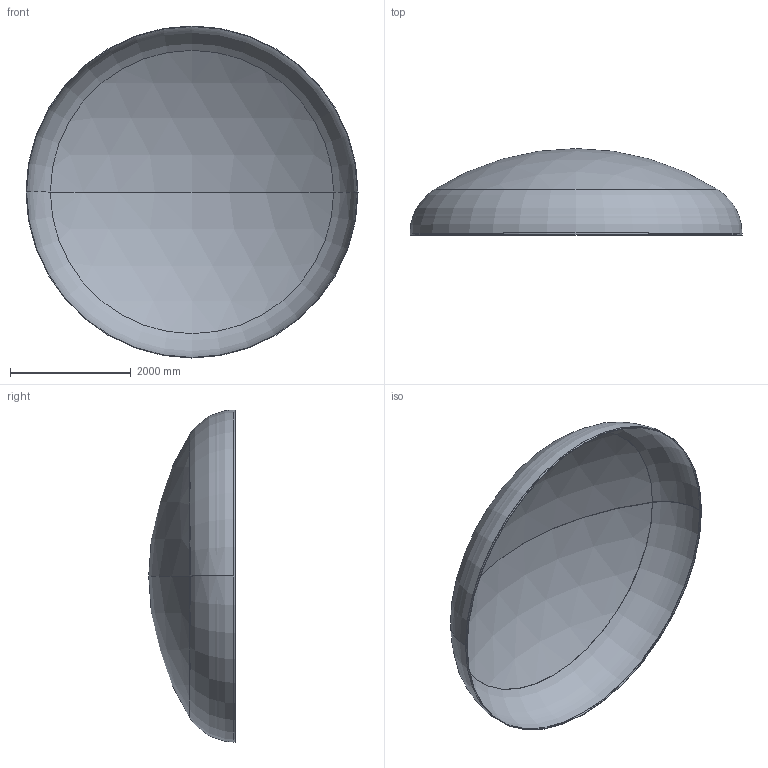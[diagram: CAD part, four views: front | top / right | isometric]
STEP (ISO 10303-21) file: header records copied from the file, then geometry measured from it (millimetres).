
FILE_DESCRIPTION (( 'STEP AP203' ), '1' );
FILE_NAME ('DIN 28013 Korbbogenform_-_Boden DIN 28013 - 5500 x 30 - I - s=9.step', '2016-07-04T10:33:33', ( '' ), ( '' ), 'SwSTEP 2.0', 'SolidWorks 2013', '' );
FILE_SCHEMA (( 'CONFIG_CONTROL_DESIGN' ));
Length unit declared in the file: millimetre
Products named in the file (1): DIN 28013 Korbbogenform_-_Boden DIN 28013 - 5500 x 30 - I - s=9
Bounding box: 5500 x 1431.81 x 5500 mm (x, y, z)
Volume: 300055929.7 mm3; surface area: 66834491.8 mm2
Topology: 1 solids, 1 shells, 13 faces, 24 edges, 14 vertices
Faces by surface type: torus 4, cylinder 4, sphere 4, plane 1
Entity records: 407 total; most frequent: DIRECTION 72, CARTESIAN_POINT 52, ORIENTED_EDGE 48, AXIS2_PLACEMENT_3D 34, EDGE_CURVE 24, CIRCLE 20, VERTEX_POINT 14, EDGE_LOOP 14
